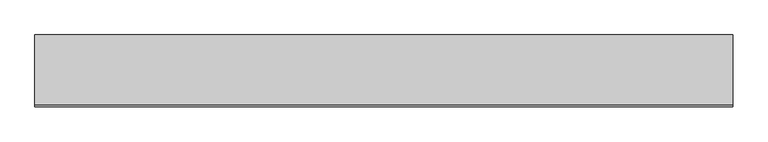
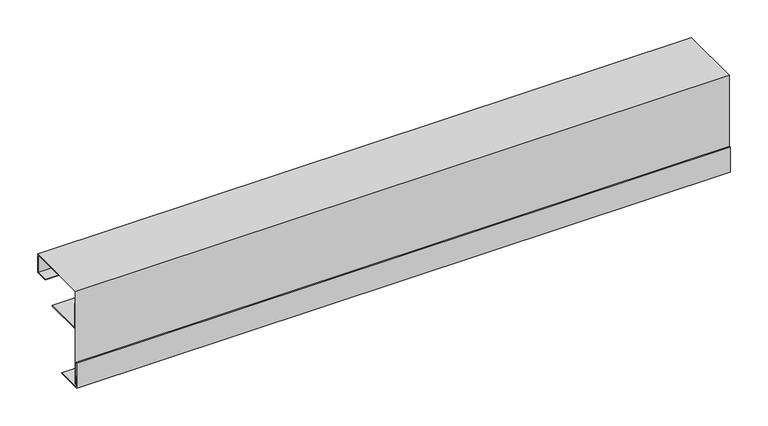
"""IFC4 building model written with IfcOpenShell, lengths in millimetres: proxy geometry, Alubel Alu-Skin Lateral Frame Type1 : Alubel Alu-Skin Lateral Frame Type1."""

from ifc_helpers import new_model, si_unit, frame, origin, place, context, project, spatial, polyline, outline, extrude, source, transform, mapped, element, save


def generic_models_3155d79f(model_context):
    return source(origin(), model_context, "Body", "SweptSolid", [
        extrude(outline(polyline([(4.0, 94.0), (4.0, 134.0), (5.0, 134.0), (5.0, 95.0), (64.0, 95.0), (64.0, 94.0), (4.0, 94.0)])), frame((-500.0, 0.0, 0.0), z_axis=(1.0, 0.0, 0.0), x_axis=(0.0, 1.0, 0.0)), (0.0, 0.0, 1.0), 1000.0),
        extrude(outline(polyline([(3.0, 5.0), (3.0, 155.0), (103.0, 155.0), (103.0, 125.0), (83.0, 125.0), (83.0, 126.0), (102.0, 126.0), (102.0, 154.0), (4.0, 154.0), (4.0, 5.0), (3.0, 5.0)])), frame((-500.0, 0.0, 0.0), z_axis=(1.0, 0.0, 0.0), x_axis=(0.0, 1.0, 0.0)), (0.0, 0.0, 1.0), 1000.0),
        extrude(outline(polyline([(0.0, 40.0), (3.0, 40.0), (3.0, 20.0), (2.0, 20.0), (2.0, 39.0), (1.0, 39.0), (1.0, 1.0), (40.0, 1.0), (40.0, 0.0), (0.0, 0.0), (0.0, 40.0)])), frame((-500.0, 0.0, 0.0), z_axis=(1.0, 0.0, 0.0), x_axis=(0.0, 1.0, 0.0)), (0.0, 0.0, 1.0), 1000.0),
    ])


if __name__ == "__main__":
    model = new_model("IFC4")
    model_context = context("Model", 3, world=origin())
    ifc_project = project(units=[si_unit("LENGTHUNIT", "METRE", prefix="MILLI")], contexts=[model_context])
    site = spatial("IfcSite", under=ifc_project)
    building = spatial("IfcBuilding", under=site)
    placement = place(None, origin())
    generic_models_shape = generic_models_3155d79f(model_context)
    element("IfcBuildingElementProxy", 1, Name="Alubel Alu-Skin Lateral Frame Type1 : Alubel Alu-Skin Lateral Frame Type1", ObjectType="Alubel Alu-Skin Lateral Frame Type1 : Alubel Alu-Skin Lateral Frame Type1", at=placement, inside=building, context=model_context, shape_type="MappedRepresentation", body=[
        mapped(generic_models_shape, transform((0.0, 0.0, 0.0), x_axis=(1.0, 0.0, 0.0), y_axis=(0.0, 1.0, 0.0), z_axis=(0.0, 0.0, 1.0))),
    ])
    save(model, "model.ifc")
